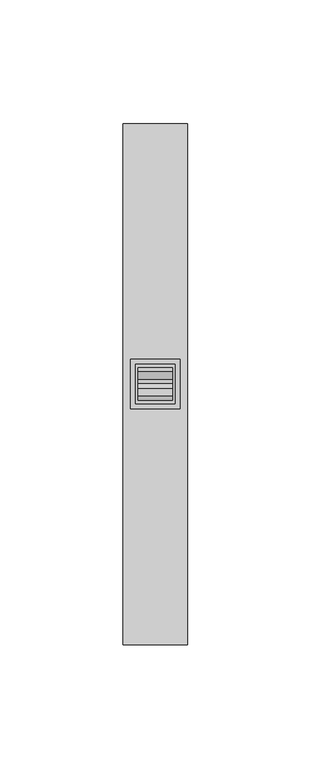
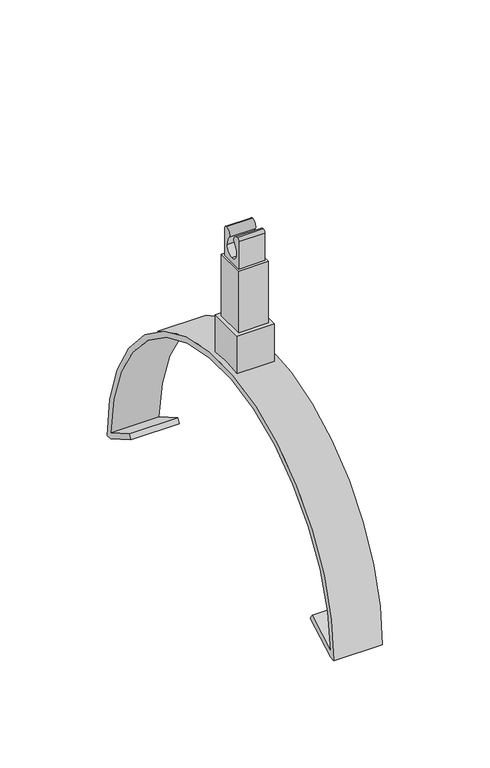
"""IFC4 building model written with IfcOpenShell, lengths in millimetres: proxy geometry, КНС_ЗажимКоньковыйРегулируемый_DKC : ND2204CU_Медь_Пластиковый держатель."""

from ifc_helpers import new_model, si_unit, point, frame, frame_2d, origin, origin_with_axes, place, context, project, spatial, polyline, circle_curve, trimmed, segment, composite_curve, outline, extrude, source, transform, mapped, element, save


def security_devices_cc728027(model_context):
    return source(origin(), model_context, "Body", "SweptSolid", [
        extrude(outline(composite_curve([segment(polyline([(16.5293889, 58.0), (3.4706111, 58.0), (3.4706111, 73.482262)]), True, "CONTINUOUS"), segment(trimmed(circle_curve(frame_2d((4.9883492, 73.482262)), 1.517738), [point((3.4706111, 73.482262))], [point((4.9883492, 75.0))], False, "CARTESIAN"), True, "CONTINUOUS"), segment(trimmed(circle_curve(frame_2d((4.9883492, 71.9480635)), 3.0519365), [point((4.9883492, 75.0))], [point((7.8098026, 70.7845702))], False, "CARTESIAN"), True, "CONTINUOUS"), segment(trimmed(circle_curve(frame_2d((13.6308466, 65.0)), 8.206449), [point((7.8098026, 70.7845702))], [point((5.4243976, 65.0))], True, "CARTESIAN"), True, "CONTINUOUS"), segment(trimmed(circle_curve(frame_2d((10.0, 65.0)), 4.5756024), [point((5.4243976, 65.0))], [point((10.0, 60.4243976))], True, "CARTESIAN"), True, "CONTINUOUS"), segment(trimmed(circle_curve(frame_2d((10.0, 65.0)), 4.5756024), [point((10.0, 60.4243976))], [point((14.5756024, 65.0))], True, "CARTESIAN"), True, "CONTINUOUS"), segment(trimmed(circle_curve(frame_2d((6.3691534, 65.0)), 8.206449), [point((14.5756024, 65.0))], [point((12.1901974, 70.7845702))], True, "CARTESIAN"), True, "CONTINUOUS"), segment(trimmed(circle_curve(frame_2d((15.0116508, 71.9480635)), 3.0519365), [point((12.1901974, 70.7845702))], [point((15.0116508, 75.0))], False, "CARTESIAN"), True, "CONTINUOUS"), segment(trimmed(circle_curve(frame_2d((15.0116508, 73.482262)), 1.517738), [point((15.0116508, 75.0))], [point((16.5293889, 73.482262))], False, "CARTESIAN"), True, "CONTINUOUS"), segment(polyline([(16.5293889, 73.482262), (16.5293889, 58.0)]), True, "CONTINUOUS")], self_intersect=False)), frame((-7.0, 0.0, 0.0), z_axis=(1.0, 0.0, 0.0), x_axis=(0.0, 1.0, 0.0)), (0.0, 0.0, 1.0), 14.0),
        extrude(outline(polyline([(8.0, 18.0), (8.0, 2.0), (-8.0, 2.0), (-8.0, 18.0), (8.0, 18.0)])), frame((0.0, 0.0, 23.0), z_axis=(0.0, 0.0, 1.0), x_axis=(1.0, 0.0, 0.0)), (0.0, 0.0, 1.0), 35.0),
        extrude(outline(polyline([(10.0, 20.0), (10.0, 0.0), (-10.0, 0.0), (-10.0, 20.0), (10.0, 20.0)])), origin_with_axes(), (0.0, 0.0, 1.0), 23.0),
        extrude(outline(composite_curve([segment(trimmed(circle_curve(frame_2d((10.0, -102.5)), 105.5), [point((-95.5, -102.5))], [point((115.5, -102.5))], False, "CARTESIAN"), True, "CONTINUOUS"), segment(polyline([(115.5, -102.5), (112.5, -102.5), (93.5740989, -91.5731259), (95.0740989, -88.9750497), (112.4402748, -99.0014161)]), True, "CONTINUOUS"), segment(trimmed(circle_curve(frame_2d((10.0, -102.5)), 102.5), [point((112.4402748, -99.0014161))], [point((-92.4408565, -99.0184891))], True, "CARTESIAN"), True, "CONTINUOUS"), segment(polyline([(-92.4408565, -99.0184891), (-75.1203484, -89.0184891), (-73.6275959, -91.6040124), (-92.5, -102.5), (-95.5, -102.5)]), True, "CONTINUOUS")], self_intersect=False)), frame((-13.0, 0.0, 0.0), z_axis=(1.0, 0.0, 0.0), x_axis=(0.0, 1.0, 0.0)), (0.0, 0.0, 1.0), 26.0),
    ])


if __name__ == "__main__":
    model = new_model("IFC4")
    model_context = context("Model", 3, world=origin())
    ifc_project = project(units=[si_unit("LENGTHUNIT", "METRE", prefix="MILLI")], contexts=[model_context])
    site = spatial("IfcSite", under=ifc_project)
    building = spatial("IfcBuilding", under=site)
    placement = place(None, origin())
    security_devices_shape = security_devices_cc728027(model_context)
    element("IfcBuildingElementProxy", 1, Name="КНС_ЗажимКоньковыйРегулируемый_DKC : ND2204CU_Медь_Пластиковый держатель", ObjectType="КНС_ЗажимКоньковыйРегулируемый_DKC : ND2204CU_Медь_Пластиковый держатель", at=placement, inside=building, context=model_context, shape_type="MappedRepresentation", body=[
        mapped(security_devices_shape, transform((0.0, 0.0, 0.0), x_axis=(1.0, 0.0, 0.0), y_axis=(0.0, 1.0, 0.0), z_axis=(0.0, 0.0, 1.0))),
    ])
    save(model, "model.ifc")
